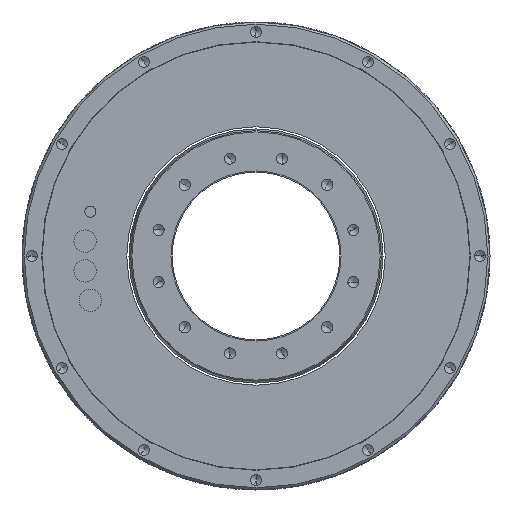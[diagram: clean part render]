
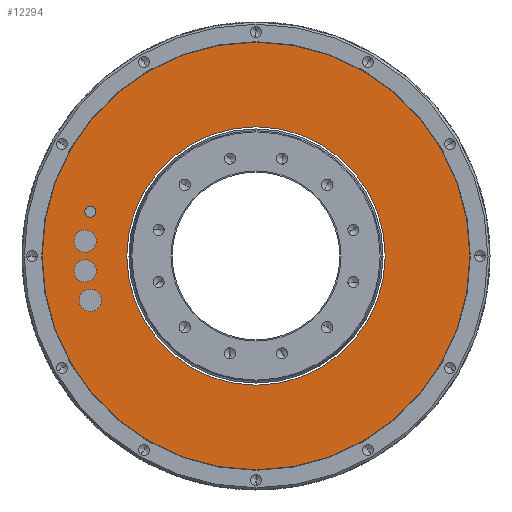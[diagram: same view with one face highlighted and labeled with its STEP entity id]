
A CAD part, left-side view. The second image highlights one B-rep face of the part: STEP entity #12294.
In plain terms, the highlighted planar face has unit normal (-1, 0, 0).
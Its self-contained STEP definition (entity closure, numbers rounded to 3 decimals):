
#11873=CARTESIAN_POINT('',(-140.,0.,0.));
#11874=DIRECTION('',(-1.,0.,0.));
#11875=DIRECTION('',(0.,1.,0.));
#11876=AXIS2_PLACEMENT_3D('',#11873,#11874,#11875);
#11878=CARTESIAN_POINT('',(-140.,0.,0.));
#11879=DIRECTION('',(1.,0.,0.));
#11880=DIRECTION('',(0.,1.,0.));
#11881=AXIS2_PLACEMENT_3D('',#11878,#11879,#11880);
#11883=CARTESIAN_POINT('',(-140.,0.,0.));
#11884=DIRECTION('',(-1.,0.,0.));
#11885=DIRECTION('',(0.,1.,0.));
#11886=AXIS2_PLACEMENT_3D('',#11883,#11884,#11885);
#11888=CARTESIAN_POINT('',(-140.,0.,0.));
#11889=DIRECTION('',(1.,0.,0.));
#11890=DIRECTION('',(0.,1.,0.));
#11891=AXIS2_PLACEMENT_3D('',#11888,#11889,#11890);
#11893=CARTESIAN_POINT('',(-140.,73.99,-19.826));
#11894=DIRECTION('',(-1.,0.,0.));
#11895=DIRECTION('',(0.,0.,1.));
#11896=AXIS2_PLACEMENT_3D('',#11893,#11894,#11895);
#11898=CARTESIAN_POINT('',(-140.,73.99,-19.826));
#11899=DIRECTION('',(-1.,0.,0.));
#11900=DIRECTION('',(0.,0.,-1.));
#11901=AXIS2_PLACEMENT_3D('',#11898,#11899,#11900);
#11903=CARTESIAN_POINT('',(-140.,73.99,19.826));
#11904=DIRECTION('',(-1.,0.,0.));
#11905=DIRECTION('',(0.,0.,1.));
#11906=AXIS2_PLACEMENT_3D('',#11903,#11904,#11905);
#11908=CARTESIAN_POINT('',(-140.,73.99,19.826));
#11909=DIRECTION('',(-1.,0.,0.));
#11910=DIRECTION('',(0.,0.,-1.));
#11911=AXIS2_PLACEMENT_3D('',#11908,#11909,#11910);
#11913=CARTESIAN_POINT('',(-140.,76.309,6.676));
#11914=DIRECTION('',(-1.,0.,0.));
#11915=DIRECTION('',(0.,0.,1.));
#11916=AXIS2_PLACEMENT_3D('',#11913,#11914,#11915);
#11918=CARTESIAN_POINT('',(-140.,76.309,6.676));
#11919=DIRECTION('',(-1.,0.,0.));
#11920=DIRECTION('',(0.,0.,-1.));
#11921=AXIS2_PLACEMENT_3D('',#11918,#11919,#11920);
#11923=CARTESIAN_POINT('',(-140.,76.309,-6.676));
#11924=DIRECTION('',(-1.,0.,0.));
#11925=DIRECTION('',(0.,0.,1.));
#11926=AXIS2_PLACEMENT_3D('',#11923,#11924,#11925);
#11928=CARTESIAN_POINT('',(-140.,76.309,-6.676));
#11929=DIRECTION('',(-1.,0.,0.));
#11930=DIRECTION('',(0.,0.,-1.));
#11931=AXIS2_PLACEMENT_3D('',#11928,#11929,#11930);
#12082=CARTESIAN_POINT('',(-140.,95.5,0.));
#12084=VERTEX_POINT('',#12082);
#12085=CARTESIAN_POINT('',(-140.,57.7,0.));
#12087=VERTEX_POINT('',#12085);
#12102=CARTESIAN_POINT('',(-140.,-95.5,0.));
#12104=VERTEX_POINT('',#12102);
#12105=CARTESIAN_POINT('',(-140.,-57.7,0.));
#12107=VERTEX_POINT('',#12105);
#12137=CARTESIAN_POINT('',(-140.,73.99,-14.826));
#12138=CARTESIAN_POINT('',(-140.,73.99,-24.826));
#12139=VERTEX_POINT('',#12137);
#12140=VERTEX_POINT('',#12138);
#12141=CARTESIAN_POINT('',(-140.,73.99,22.326));
#12142=CARTESIAN_POINT('',(-140.,73.99,17.326));
#12143=VERTEX_POINT('',#12141);
#12144=VERTEX_POINT('',#12142);
#12145=CARTESIAN_POINT('',(-140.,76.309,11.676));
#12146=CARTESIAN_POINT('',(-140.,76.309,1.676));
#12147=VERTEX_POINT('',#12145);
#12148=VERTEX_POINT('',#12146);
#12149=CARTESIAN_POINT('',(-140.,76.309,-1.676));
#12150=CARTESIAN_POINT('',(-140.,76.309,-11.676));
#12151=VERTEX_POINT('',#12149);
#12152=VERTEX_POINT('',#12150);
#12255=CARTESIAN_POINT('',(-140.,0.,0.));
#12256=DIRECTION('',(1.,0.,0.));
#12257=DIRECTION('',(0.,-1.,0.));
#12258=AXIS2_PLACEMENT_3D('',#12255,#12256,#12257);
#12259=PLANE('',#12258);
#12261=ORIENTED_EDGE('',*,*,#12260,.F.);
#12263=ORIENTED_EDGE('',*,*,#12262,.T.);
#12264=EDGE_LOOP('',(#12261,#12263));
#12265=FACE_OUTER_BOUND('',#12264,.F.);
#12266=ORIENTED_EDGE('',*,*,#12248,.F.);
#12267=ORIENTED_EDGE('',*,*,#12237,.T.);
#12268=EDGE_LOOP('',(#12266,#12267));
#12269=FACE_BOUND('',#12268,.F.);
#12271=ORIENTED_EDGE('',*,*,#12270,.T.);
#12273=ORIENTED_EDGE('',*,*,#12272,.T.);
#12274=EDGE_LOOP('',(#12271,#12273));
#12275=FACE_BOUND('',#12274,.F.);
#12277=ORIENTED_EDGE('',*,*,#12276,.T.);
#12279=ORIENTED_EDGE('',*,*,#12278,.T.);
#12280=EDGE_LOOP('',(#12277,#12279));
#12281=FACE_BOUND('',#12280,.F.);
#12283=ORIENTED_EDGE('',*,*,#12282,.T.);
#12285=ORIENTED_EDGE('',*,*,#12284,.T.);
#12286=EDGE_LOOP('',(#12283,#12285));
#12287=FACE_BOUND('',#12286,.F.);
#12289=ORIENTED_EDGE('',*,*,#12288,.T.);
#12291=ORIENTED_EDGE('',*,*,#12290,.T.);
#12292=EDGE_LOOP('',(#12289,#12291));
#12293=FACE_BOUND('',#12292,.F.);
#12294=ADVANCED_FACE('',(#12265,#12269,#12275,#12281,#12287,#12293),#12259,.F.);
#11877=CIRCLE('',#11876,57.7);
#11882=CIRCLE('',#11881,57.7);
#11887=CIRCLE('',#11886,95.5);
#11892=CIRCLE('',#11891,95.5);
#11897=CIRCLE('',#11896,5.);
#11902=CIRCLE('',#11901,5.);
#11907=CIRCLE('',#11906,2.5);
#11912=CIRCLE('',#11911,2.5);
#11917=CIRCLE('',#11916,5.);
#11922=CIRCLE('',#11921,5.);
#11927=CIRCLE('',#11926,5.);
#11932=CIRCLE('',#11931,5.);
#12237=EDGE_CURVE('',#12087,#12107,#11877,.T.);
#12248=EDGE_CURVE('',#12087,#12107,#11882,.T.);
#12260=EDGE_CURVE('',#12084,#12104,#11887,.T.);
#12262=EDGE_CURVE('',#12084,#12104,#11892,.T.);
#12270=EDGE_CURVE('',#12139,#12140,#11897,.T.);
#12272=EDGE_CURVE('',#12140,#12139,#11902,.T.);
#12276=EDGE_CURVE('',#12143,#12144,#11907,.T.);
#12278=EDGE_CURVE('',#12144,#12143,#11912,.T.);
#12282=EDGE_CURVE('',#12147,#12148,#11917,.T.);
#12284=EDGE_CURVE('',#12148,#12147,#11922,.T.);
#12288=EDGE_CURVE('',#12151,#12152,#11927,.T.);
#12290=EDGE_CURVE('',#12152,#12151,#11932,.T.);
